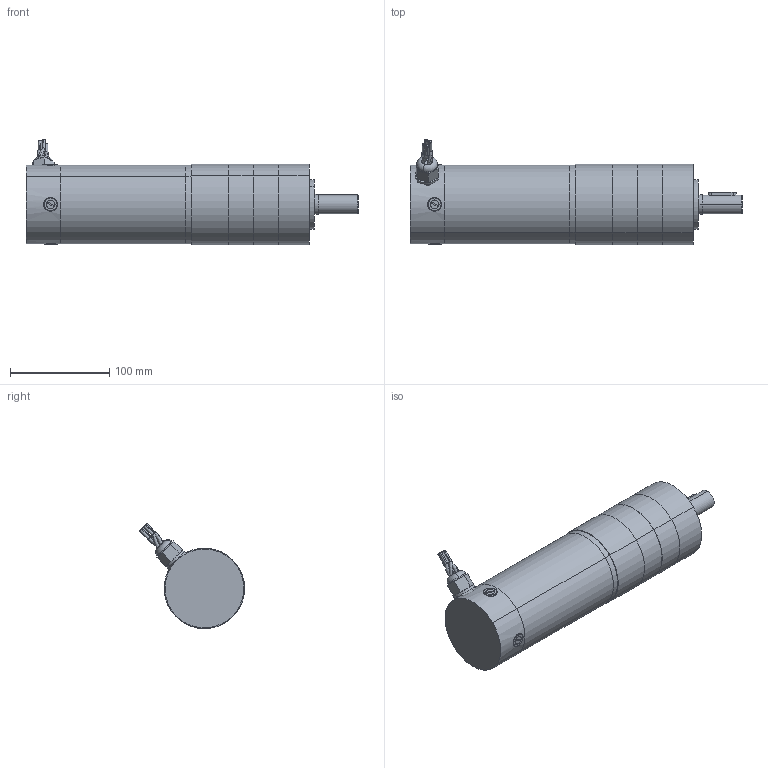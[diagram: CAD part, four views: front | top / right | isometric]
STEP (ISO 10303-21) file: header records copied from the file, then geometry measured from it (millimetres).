
FILE_DESCRIPTION (( 'STEP AP203' ), '1' );
FILE_NAME ('d33655agp2.step', '2018-12-07T19:33:28', ( '' ), ( '' ), 'SwSTEP 2.0', 'SolidWorks 2017', '' );
FILE_SCHEMA (( 'CONFIG_CONTROL_DESIGN' ));
Length unit declared in the file: inch
Products named in the file (1): d33655agp2
Bounding box: 334.12 x 105.69 x 105.69 mm (x, y, z)
Volume: 1469282.2 mm3; surface area: 171537 mm2
Topology: 21 solids, 21 shells, 493 faces, 1072 edges, 653 vertices
Faces by surface type: plane 220, cylinder 177, cone 49, torus 31, bspline 8, sphere 8
Entity records: 14426 total; most frequent: CARTESIAN_POINT 3321, DIRECTION 2533, ORIENTED_EDGE 2112, EDGE_CURVE 1056, AXIS2_PLACEMENT_3D 1037, VERTEX_POINT 653, EDGE_LOOP 561, CIRCLE 551
